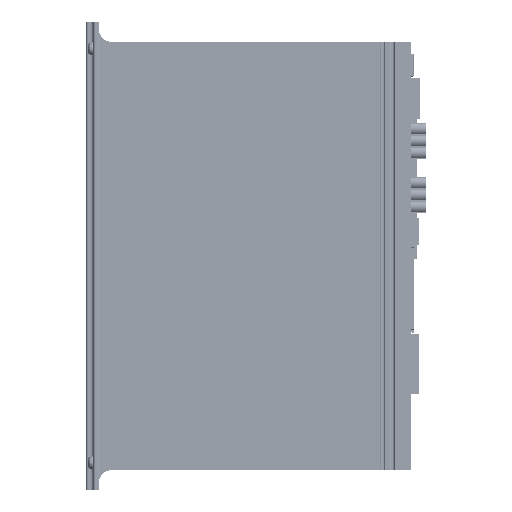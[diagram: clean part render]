
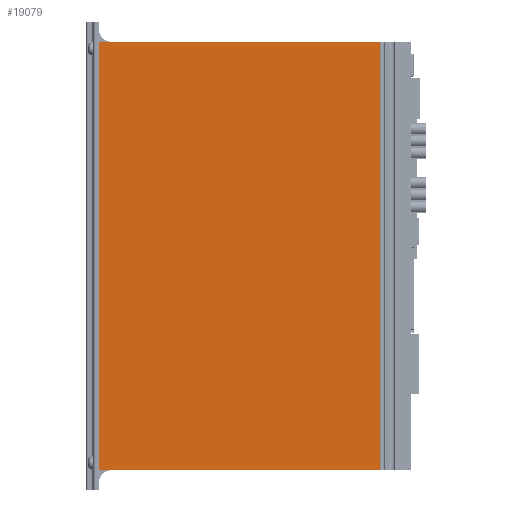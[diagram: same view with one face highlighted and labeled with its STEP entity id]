
A CAD part, front view. The second image highlights one B-rep face of the part: STEP entity #19079.
In plain terms, the highlighted planar face has unit normal (0, -1, 0) as drawn and (-1, 0, 0) by its records, which use the part's own axes.
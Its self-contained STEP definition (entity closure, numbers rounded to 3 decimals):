
#8974=DIRECTION('',(0.,-1.,0.));
#8975=VECTOR('',#8974,179.4);
#8976=CARTESIAN_POINT('',(-23.5,89.7,13.));
#8977=LINE('',#8976,#8975);
#8981=DIRECTION('',(0.,0.,-1.));
#8982=VECTOR('',#8981,118.1);
#8983=CARTESIAN_POINT('',(-23.5,89.7,131.1));
#8984=LINE('',#8983,#8982);
#8988=DIRECTION('',(0.,0.,-1.));
#8989=VECTOR('',#8988,118.1);
#8990=CARTESIAN_POINT('',(-23.5,-89.7,131.1));
#8991=LINE('',#8990,#8989);
#11291=DIRECTION('',(0.,-1.,0.));
#11292=VECTOR('',#11291,179.4);
#11293=CARTESIAN_POINT('',(-23.5,89.7,131.1));
#11294=LINE('',#11293,#11292);
#17376=CARTESIAN_POINT('',(-23.5,-89.7,131.1));
#17378=VERTEX_POINT('',#17376);
#17405=CARTESIAN_POINT('',(-23.5,89.7,131.1));
#17407=VERTEX_POINT('',#17405);
#17914=CARTESIAN_POINT('',(-23.5,89.7,13.));
#17915=CARTESIAN_POINT('',(-23.5,-89.7,13.));
#17916=VERTEX_POINT('',#17914);
#17917=VERTEX_POINT('',#17915);
#19064=CARTESIAN_POINT('',(-23.5,90.,0.));
#19065=DIRECTION('',(-1.,0.,0.));
#19066=DIRECTION('',(0.,-1.,0.));
#19067=AXIS2_PLACEMENT_3D('',#19064,#19065,#19066);
#19068=PLANE('',#19067);
#19070=ORIENTED_EDGE('',*,*,#19069,.F.);
#19072=ORIENTED_EDGE('',*,*,#19071,.F.);
#19074=ORIENTED_EDGE('',*,*,#19073,.T.);
#19076=ORIENTED_EDGE('',*,*,#19075,.T.);
#19077=EDGE_LOOP('',(#19070,#19072,#19074,#19076));
#19078=FACE_OUTER_BOUND('',#19077,.F.);
#19069=EDGE_CURVE('',#17916,#17917,#8977,.T.);
#19071=EDGE_CURVE('',#17407,#17916,#8984,.T.);
#19073=EDGE_CURVE('',#17407,#17378,#11294,.T.);
#19075=EDGE_CURVE('',#17378,#17917,#8991,.T.);
#19079=ADVANCED_FACE('',(#19078),#19068,.T.);
